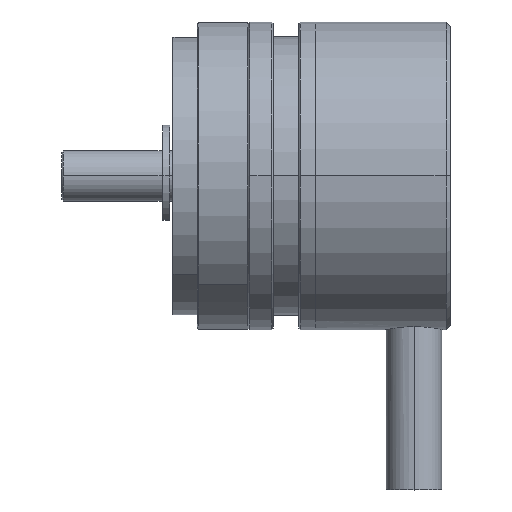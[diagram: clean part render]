
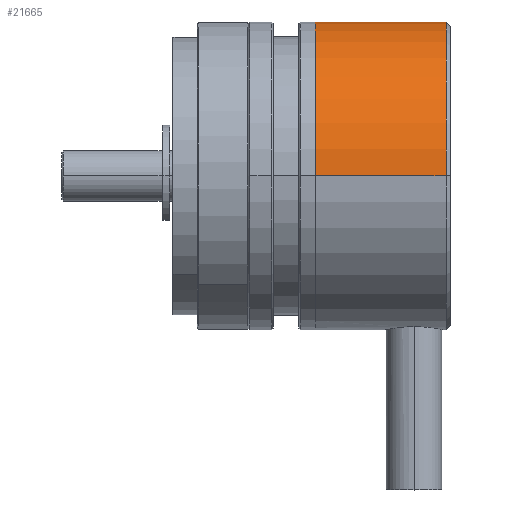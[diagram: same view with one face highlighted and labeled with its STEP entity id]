
A CAD part, top view. The second image highlights one B-rep face of the part: STEP entity #21665.
In plain terms, the highlighted cylindrical face has radius 18.267 mm (diameter 36.534 mm), a partial arc.
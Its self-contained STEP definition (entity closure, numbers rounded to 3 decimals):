
#2060 = ORIENTED_EDGE ( 'NONE', *, *, #57898, .F. ) ;
#2658 = ORIENTED_EDGE ( 'NONE', *, *, #17765, .F. ) ;
#7890 = DIRECTION ( 'NONE',  ( -1., 0., 0. ) ) ;
#8182 = EDGE_CURVE ( 'NONE', #59753, #45485, #23494, .T. ) ;
#8971 = VECTOR ( 'NONE', #7890, 1000. ) ;
#9792 = DIRECTION ( 'NONE',  ( -1., 0., 0. ) ) ;
#9983 = CIRCLE ( 'NONE', #55187, 18.267 ) ;
#14926 = AXIS2_PLACEMENT_3D ( 'NONE', #17561, #52574, #22723 ) ;
#15939 = DIRECTION ( 'NONE',  ( -1., 0., 0. ) ) ;
#17561 = CARTESIAN_POINT ( 'NONE',  ( 34.277, 17.611, 18.033 ) ) ;
#17765 = EDGE_CURVE ( 'NONE', #55595, #53553, #22669, .T. ) ;
#20139 = DIRECTION ( 'NONE',  ( 0., 0., 1. ) ) ;
#21665 = ADVANCED_FACE ( 'NONE', ( #56724 ), #61998, .T. ) ;
#22669 = LINE ( 'NONE', #57956, #8971 ) ;
#22723 = DIRECTION ( 'NONE',  ( 0., 0., 1. ) ) ;
#23494 = LINE ( 'NONE', #34925, #59970 ) ;
#24755 = CARTESIAN_POINT ( 'NONE',  ( 49.777, 17.611, 36.3 ) ) ;
#29645 = CARTESIAN_POINT ( 'NONE',  ( 49.777, 17.611, -0.234 ) ) ;
#34925 = CARTESIAN_POINT ( 'NONE',  ( 41.822, 17.611, -0.234 ) ) ;
#38417 = ORIENTED_EDGE ( 'NONE', *, *, #61791, .T. ) ;
#44975 = CARTESIAN_POINT ( 'NONE',  ( 41.822, 17.611, 18.033 ) ) ;
#45485 = VERTEX_POINT ( 'NONE', #62723 ) ;
#46131 = CARTESIAN_POINT ( 'NONE',  ( 49.777, 17.611, 18.033 ) ) ;
#49983 = ORIENTED_EDGE ( 'NONE', *, *, #8182, .T. ) ;
#51046 = DIRECTION ( 'NONE',  ( 0., 0., 1. ) ) ;
#52574 = DIRECTION ( 'NONE',  ( -1., 0., 0. ) ) ;
#52872 = CIRCLE ( 'NONE', #14926, 18.267 ) ;
#53553 = VERTEX_POINT ( 'NONE', #53578 ) ;
#53578 = CARTESIAN_POINT ( 'NONE',  ( 34.277, 17.611, 36.3 ) ) ;
#53879 = AXIS2_PLACEMENT_3D ( 'NONE', #44975, #64656, #20139 ) ;
#55187 = AXIS2_PLACEMENT_3D ( 'NONE', #46131, #15939, #51046 ) ;
#55595 = VERTEX_POINT ( 'NONE', #24755 ) ;
#56724 = FACE_OUTER_BOUND ( 'NONE', #64530, .T. ) ;
#57898 = EDGE_CURVE ( 'NONE', #53553, #45485, #52872, .T. ) ;
#57956 = CARTESIAN_POINT ( 'NONE',  ( 41.822, 17.611, 36.3 ) ) ;
#59753 = VERTEX_POINT ( 'NONE', #29645 ) ;
#59970 = VECTOR ( 'NONE', #9792, 1000. ) ;
#61791 = EDGE_CURVE ( 'NONE', #55595, #59753, #9983, .T. ) ;
#61998 = CYLINDRICAL_SURFACE ( 'NONE', #53879, 18.267 ) ;
#62723 = CARTESIAN_POINT ( 'NONE',  ( 34.277, 17.611, -0.234 ) ) ;
#64530 = EDGE_LOOP ( 'NONE', ( #38417, #49983, #2060, #2658 ) ) ;
#64656 = DIRECTION ( 'NONE',  ( -1., 0., 0. ) ) ;
